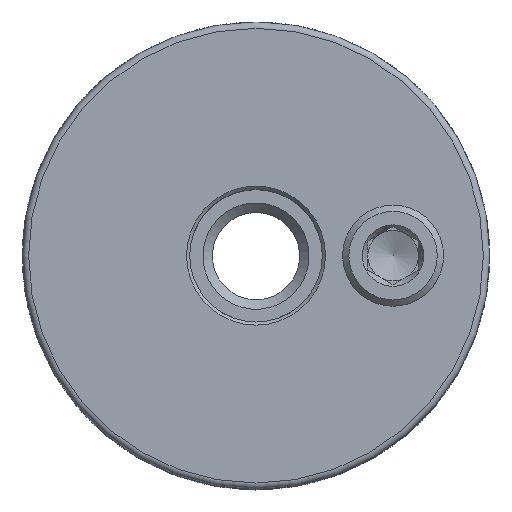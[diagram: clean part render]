
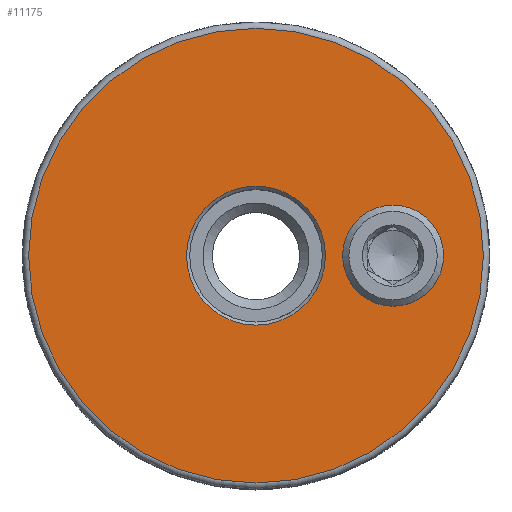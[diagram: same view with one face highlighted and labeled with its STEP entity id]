
A CAD part, top view. The second image highlights one B-rep face of the part: STEP entity #11175.
In plain terms, the highlighted planar face has unit normal (0, 0, 1).
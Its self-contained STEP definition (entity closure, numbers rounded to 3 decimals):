
#452=PLANE('',#12382);
#3121=CIRCLE('',#12383,11.);
#3122=CIRCLE('',#12384,36.);
#3123=CIRCLE('',#12385,8.);
#6159=ORIENTED_EDGE('',*,*,#7835,.T.);
#6160=ORIENTED_EDGE('',*,*,#7836,.T.);
#6161=ORIENTED_EDGE('',*,*,#7837,.F.);
#7835=EDGE_CURVE('',#8945,#8945,#3121,.F.);
#7836=EDGE_CURVE('',#8946,#8946,#3122,.T.);
#7837=EDGE_CURVE('',#8947,#8947,#3123,.T.);
#8945=VERTEX_POINT('',#18936);
#8946=VERTEX_POINT('',#18938);
#8947=VERTEX_POINT('',#18940);
#9650=EDGE_LOOP('',(#6159));
#9651=EDGE_LOOP('',(#6160));
#9652=EDGE_LOOP('',(#6161));
#10348=FACE_BOUND('',#9650,.T.);
#10349=FACE_BOUND('',#9651,.T.);
#10350=FACE_BOUND('',#9652,.T.);
#11175=ADVANCED_FACE('',(#10348,#10349,#10350),#452,.T.);
#12382=AXIS2_PLACEMENT_3D('',#18934,#15417,#15418);
#12383=AXIS2_PLACEMENT_3D('',#18935,#15419,#15420);
#12384=AXIS2_PLACEMENT_3D('',#18937,#15421,#15422);
#12385=AXIS2_PLACEMENT_3D('',#18939,#15423,#15424);
#15417=DIRECTION('',(0.,0.,1.));
#15418=DIRECTION('',(1.,0.,0.));
#15419=DIRECTION('',(0.,0.,1.));
#15420=DIRECTION('',(1.,0.,0.));
#15421=DIRECTION('',(0.,0.,1.));
#15422=DIRECTION('',(1.,0.,0.));
#15423=DIRECTION('',(0.,0.,1.));
#15424=DIRECTION('',(1.,0.,0.));
#18934=CARTESIAN_POINT('',(10.5,0.,34.));
#18935=CARTESIAN_POINT('',(0.,0.,34.));
#18936=CARTESIAN_POINT('',(11.,0.,34.));
#18937=CARTESIAN_POINT('',(0.,0.,34.));
#18938=CARTESIAN_POINT('',(36.,0.,34.));
#18939=CARTESIAN_POINT('',(21.7,0.,34.));
#18940=CARTESIAN_POINT('',(29.7,0.,34.));
